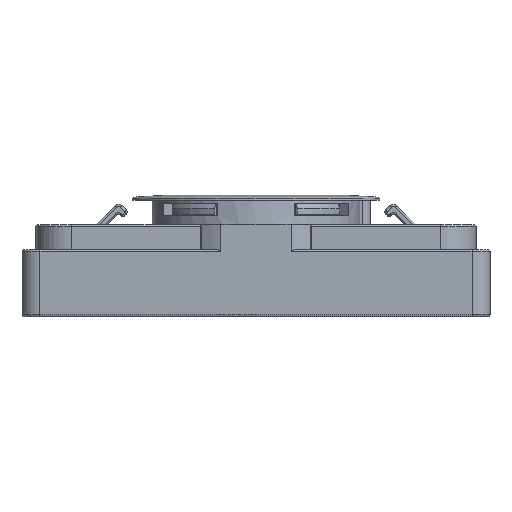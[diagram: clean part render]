
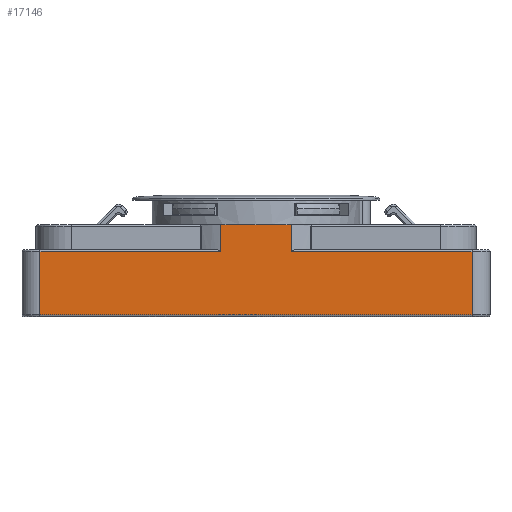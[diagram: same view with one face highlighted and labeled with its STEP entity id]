
A CAD part, front view. The second image highlights one B-rep face of the part: STEP entity #17146.
In plain terms, the highlighted planar face has unit normal (0, -1, 0).
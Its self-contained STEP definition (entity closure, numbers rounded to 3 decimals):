
#4129=DIRECTION('',(0.,0.,1.));
#4130=VECTOR('',#4129,6.3);
#4131=CARTESIAN_POINT('',(-21.6,-9.45,0.2));
#4132=LINE('',#4131,#4130);
#4176=DIRECTION('',(1.,0.,0.));
#4177=VECTOR('',#4176,18.072);
#4178=CARTESIAN_POINT('',(-21.6,-9.45,6.5));
#4179=LINE('',#4178,#4177);
#4190=DIRECTION('',(-1.,0.,0.));
#4191=VECTOR('',#4190,7.056);
#4192=CARTESIAN_POINT('',(3.528,-9.45,9.2));
#4193=LINE('',#4192,#4191);
#4204=DIRECTION('',(1.,0.,0.));
#4205=VECTOR('',#4204,18.072);
#4206=CARTESIAN_POINT('',(3.528,-9.45,6.5));
#4207=LINE('',#4206,#4205);
#7536=DIRECTION('',(-1.,0.,0.));
#7537=VECTOR('',#7536,43.2);
#7538=CARTESIAN_POINT('',(21.6,-9.45,0.2));
#7539=LINE('',#7538,#7537);
#7550=DIRECTION('',(0.,0.,-1.));
#7551=VECTOR('',#7550,6.3);
#7552=CARTESIAN_POINT('',(21.6,-9.45,6.5));
#7553=LINE('',#7552,#7551);
#8024=DIRECTION('',(0.,0.,1.));
#8025=VECTOR('',#8024,2.7);
#8026=CARTESIAN_POINT('',(-3.528,-9.45,6.5));
#8027=LINE('',#8026,#8025);
#8036=CARTESIAN_POINT('',(-3.528,-9.45,6.5));
#8058=DIRECTION('',(0.,0.,-1.));
#8059=VECTOR('',#8058,2.7);
#8060=CARTESIAN_POINT('',(3.528,-9.45,9.2));
#8061=LINE('',#8060,#8059);
#11529=CARTESIAN_POINT('',(-3.528,-9.45,9.2));
#11531=VERTEX_POINT('',#11529);
#11535=VERTEX_POINT('',#8036);
#11536=CARTESIAN_POINT('',(3.528,-9.45,9.2));
#11538=VERTEX_POINT('',#11536);
#11540=CARTESIAN_POINT('',(3.528,-9.45,6.5));
#11541=VERTEX_POINT('',#11540);
#11757=CARTESIAN_POINT('',(-21.6,-9.45,6.5));
#11758=VERTEX_POINT('',#11757);
#11792=CARTESIAN_POINT('',(-21.6,-9.45,0.2));
#11793=VERTEX_POINT('',#11792);
#12007=CARTESIAN_POINT('',(21.6,-9.45,6.5));
#12008=VERTEX_POINT('',#12007);
#12039=CARTESIAN_POINT('',(21.6,-9.45,0.2));
#12040=VERTEX_POINT('',#12039);
#17125=CARTESIAN_POINT('',(-3.565,-9.45,6.7));
#17126=DIRECTION('',(0.,1.,0.));
#17127=DIRECTION('',(0.,0.,1.));
#17128=AXIS2_PLACEMENT_3D('',#17125,#17126,#17127);
#17129=PLANE('',#17128);
#17131=ORIENTED_EDGE('',*,*,#17130,.T.);
#17133=ORIENTED_EDGE('',*,*,#17132,.T.);
#17135=ORIENTED_EDGE('',*,*,#17134,.T.);
#17136=ORIENTED_EDGE('',*,*,#17058,.T.);
#17137=ORIENTED_EDGE('',*,*,#17101,.T.);
#17139=ORIENTED_EDGE('',*,*,#17138,.T.);
#17141=ORIENTED_EDGE('',*,*,#17140,.F.);
#17143=ORIENTED_EDGE('',*,*,#17142,.T.);
#17144=EDGE_LOOP('',(#17131,#17133,#17135,#17136,#17137,#17139,#17141,#17143));
#17145=FACE_OUTER_BOUND('',#17144,.F.);
#17058=EDGE_CURVE('',#11793,#11758,#4132,.T.);
#17101=EDGE_CURVE('',#11758,#11535,#4179,.T.);
#17130=EDGE_CURVE('',#11541,#12008,#4207,.T.);
#17132=EDGE_CURVE('',#12008,#12040,#7553,.T.);
#17134=EDGE_CURVE('',#12040,#11793,#7539,.T.);
#17138=EDGE_CURVE('',#11535,#11531,#8027,.T.);
#17140=EDGE_CURVE('',#11538,#11531,#4193,.T.);
#17142=EDGE_CURVE('',#11538,#11541,#8061,.T.);
#17146=ADVANCED_FACE('',(#17145),#17129,.F.);
